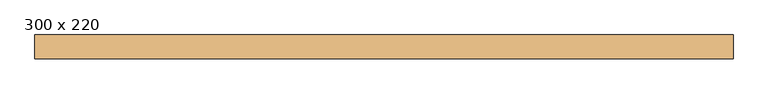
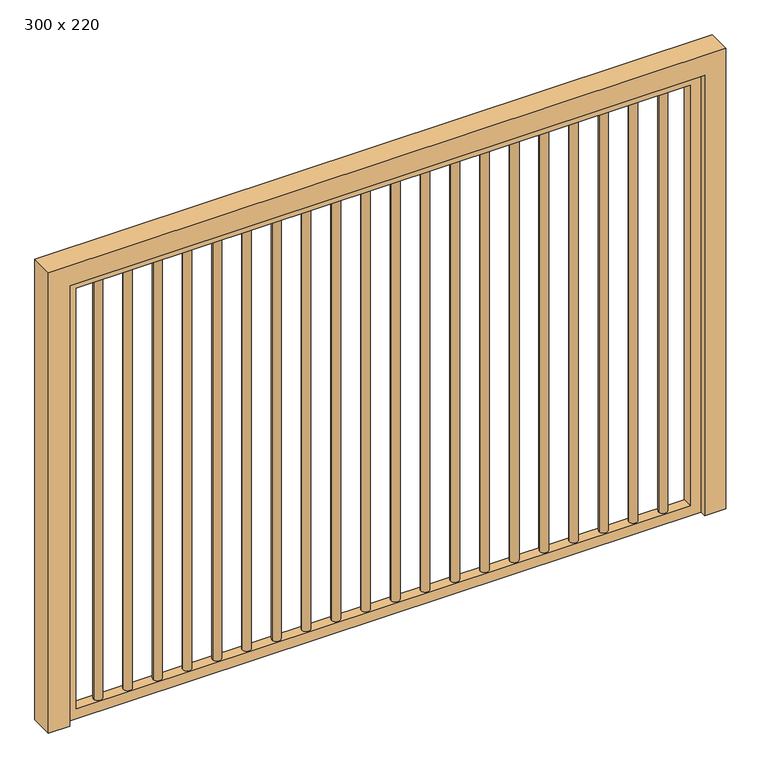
"""IFC4 building model written with IfcOpenShell, lengths in millimetres: door geometry, PORTÃO BASCULANTE COM BARRAS VERTICAIS : 300 x 220."""

from ifc_helpers import new_model, si_unit, point, frame, frame_2d, origin, place, context, project, spatial, polyline, circle_curve, trimmed, segment, composite_curve, outline, extrude, source, transform, mapped, element, save


def door_300_x_220_fe7283cd(model_context):
    return source(origin(), model_context, "Body", "SweptSolid", [
        extrude(outline(composite_curve([segment(trimmed(circle_curve(frame_2d((1414.5238095, 0.0)), 20.0), [point((1394.5238095, 0.0))], [point((1434.5238095, 0.0))], False, "CARTESIAN"), True, "CONTINUOUS"), segment(trimmed(circle_curve(frame_2d((1414.5238095, 0.0)), 20.0), [point((1434.5238095, 0.0))], [point((1394.5238095, 0.0))], False, "CARTESIAN"), True, "CONTINUOUS")], self_intersect=False)), frame((0.0, 0.0, 50.0), z_axis=(0.0, 0.0, 1.0), x_axis=(1.0, 0.0, 0.0)), (0.0, 0.0, 1.0), 2100.0),
        extrude(outline(composite_curve([segment(trimmed(circle_curve(frame_2d((1274.047619, 0.0)), 20.0), [point((1254.047619, 0.0))], [point((1294.047619, 0.0))], False, "CARTESIAN"), True, "CONTINUOUS"), segment(trimmed(circle_curve(frame_2d((1274.047619, 0.0)), 20.0), [point((1294.047619, 0.0))], [point((1254.047619, 0.0))], False, "CARTESIAN"), True, "CONTINUOUS")], self_intersect=False)), frame((0.0, 0.0, 50.0), z_axis=(0.0, 0.0, 1.0), x_axis=(1.0, 0.0, 0.0)), (0.0, 0.0, 1.0), 2100.0),
        extrude(outline(composite_curve([segment(trimmed(circle_curve(frame_2d((1133.5714286, 0.0)), 20.0), [point((1113.5714286, 0.0))], [point((1153.5714286, 0.0))], False, "CARTESIAN"), True, "CONTINUOUS"), segment(trimmed(circle_curve(frame_2d((1133.5714286, 0.0)), 20.0), [point((1153.5714286, 0.0))], [point((1113.5714286, 0.0))], False, "CARTESIAN"), True, "CONTINUOUS")], self_intersect=False)), frame((0.0, 0.0, 50.0), z_axis=(0.0, 0.0, 1.0), x_axis=(1.0, 0.0, 0.0)), (0.0, 0.0, 1.0), 2100.0),
        extrude(outline(composite_curve([segment(trimmed(circle_curve(frame_2d((993.0952381, 0.0)), 20.0), [point((973.0952381, 0.0))], [point((1013.0952381, 0.0))], False, "CARTESIAN"), True, "CONTINUOUS"), segment(trimmed(circle_curve(frame_2d((993.0952381, 0.0)), 20.0), [point((1013.0952381, 0.0))], [point((973.0952381, 0.0))], False, "CARTESIAN"), True, "CONTINUOUS")], self_intersect=False)), frame((0.0, 0.0, 50.0), z_axis=(0.0, 0.0, 1.0), x_axis=(1.0, 0.0, 0.0)), (0.0, 0.0, 1.0), 2100.0),
        extrude(outline(composite_curve([segment(trimmed(circle_curve(frame_2d((852.6190476, 0.0)), 20.0), [point((832.6190476, 0.0))], [point((872.6190476, 0.0))], False, "CARTESIAN"), True, "CONTINUOUS"), segment(trimmed(circle_curve(frame_2d((852.6190476, 0.0)), 20.0), [point((872.6190476, 0.0))], [point((832.6190476, 0.0))], False, "CARTESIAN"), True, "CONTINUOUS")], self_intersect=False)), frame((0.0, 0.0, 50.0), z_axis=(0.0, 0.0, 1.0), x_axis=(1.0, 0.0, 0.0)), (0.0, 0.0, 1.0), 2100.0),
        extrude(outline(composite_curve([segment(trimmed(circle_curve(frame_2d((712.1428571, 0.0)), 20.0), [point((692.1428571, 0.0))], [point((732.1428571, 0.0))], False, "CARTESIAN"), True, "CONTINUOUS"), segment(trimmed(circle_curve(frame_2d((712.1428571, 0.0)), 20.0), [point((732.1428571, 0.0))], [point((692.1428571, 0.0))], False, "CARTESIAN"), True, "CONTINUOUS")], self_intersect=False)), frame((0.0, 0.0, 50.0), z_axis=(0.0, 0.0, 1.0), x_axis=(1.0, 0.0, 0.0)), (0.0, 0.0, 1.0), 2100.0),
        extrude(outline(composite_curve([segment(trimmed(circle_curve(frame_2d((571.6666667, 0.0)), 20.0), [point((551.6666667, 0.0))], [point((591.6666667, 0.0))], False, "CARTESIAN"), True, "CONTINUOUS"), segment(trimmed(circle_curve(frame_2d((571.6666667, 0.0)), 20.0), [point((591.6666667, 0.0))], [point((551.6666667, 0.0))], False, "CARTESIAN"), True, "CONTINUOUS")], self_intersect=False)), frame((0.0, 0.0, 50.0), z_axis=(0.0, 0.0, 1.0), x_axis=(1.0, 0.0, 0.0)), (0.0, 0.0, 1.0), 2100.0),
        extrude(outline(composite_curve([segment(trimmed(circle_curve(frame_2d((431.1904762, 0.0)), 20.0), [point((411.1904762, 0.0))], [point((451.1904762, 0.0))], False, "CARTESIAN"), True, "CONTINUOUS"), segment(trimmed(circle_curve(frame_2d((431.1904762, 0.0)), 20.0), [point((451.1904762, 0.0))], [point((411.1904762, 0.0))], False, "CARTESIAN"), True, "CONTINUOUS")], self_intersect=False)), frame((0.0, 0.0, 50.0), z_axis=(0.0, 0.0, 1.0), x_axis=(1.0, 0.0, 0.0)), (0.0, 0.0, 1.0), 2100.0),
        extrude(outline(composite_curve([segment(trimmed(circle_curve(frame_2d((290.7142857, 0.0)), 20.0), [point((270.7142857, 0.0))], [point((310.7142857, 0.0))], False, "CARTESIAN"), True, "CONTINUOUS"), segment(trimmed(circle_curve(frame_2d((290.7142857, 0.0)), 20.0), [point((310.7142857, 0.0))], [point((270.7142857, 0.0))], False, "CARTESIAN"), True, "CONTINUOUS")], self_intersect=False)), frame((0.0, 0.0, 50.0), z_axis=(0.0, 0.0, 1.0), x_axis=(1.0, 0.0, 0.0)), (0.0, 0.0, 1.0), 2100.0),
        extrude(outline(composite_curve([segment(trimmed(circle_curve(frame_2d((150.2380952, 0.0)), 20.0), [point((130.2380952, 0.0))], [point((170.2380952, 0.0))], False, "CARTESIAN"), True, "CONTINUOUS"), segment(trimmed(circle_curve(frame_2d((150.2380952, 0.0)), 20.0), [point((170.2380952, 0.0))], [point((130.2380952, 0.0))], False, "CARTESIAN"), True, "CONTINUOUS")], self_intersect=False)), frame((0.0, 0.0, 50.0), z_axis=(0.0, 0.0, 1.0), x_axis=(1.0, 0.0, 0.0)), (0.0, 0.0, 1.0), 2100.0),
        extrude(outline(composite_curve([segment(trimmed(circle_curve(frame_2d((9.7619048, 0.0)), 20.0), [point((-10.2380952, 0.0))], [point((29.7619048, 0.0))], False, "CARTESIAN"), True, "CONTINUOUS"), segment(trimmed(circle_curve(frame_2d((9.7619048, 0.0)), 20.0), [point((29.7619048, 0.0))], [point((-10.2380952, 0.0))], False, "CARTESIAN"), True, "CONTINUOUS")], self_intersect=False)), frame((0.0, 0.0, 50.0), z_axis=(0.0, 0.0, 1.0), x_axis=(1.0, 0.0, 0.0)), (0.0, 0.0, 1.0), 2100.0),
        extrude(outline(composite_curve([segment(trimmed(circle_curve(frame_2d((-130.7142857, 0.0)), 20.0), [point((-150.7142857, 0.0))], [point((-110.7142857, 0.0))], False, "CARTESIAN"), True, "CONTINUOUS"), segment(trimmed(circle_curve(frame_2d((-130.7142857, 0.0)), 20.0), [point((-110.7142857, 0.0))], [point((-150.7142857, 0.0))], False, "CARTESIAN"), True, "CONTINUOUS")], self_intersect=False)), frame((0.0, 0.0, 50.0), z_axis=(0.0, 0.0, 1.0), x_axis=(1.0, 0.0, 0.0)), (0.0, 0.0, 1.0), 2100.0),
        extrude(outline(composite_curve([segment(trimmed(circle_curve(frame_2d((-271.1904762, 0.0)), 20.0), [point((-291.1904762, 0.0))], [point((-251.1904762, 0.0))], False, "CARTESIAN"), True, "CONTINUOUS"), segment(trimmed(circle_curve(frame_2d((-271.1904762, 0.0)), 20.0), [point((-251.1904762, 0.0))], [point((-291.1904762, 0.0))], False, "CARTESIAN"), True, "CONTINUOUS")], self_intersect=False)), frame((0.0, 0.0, 50.0), z_axis=(0.0, 0.0, 1.0), x_axis=(1.0, 0.0, 0.0)), (0.0, 0.0, 1.0), 2100.0),
        extrude(outline(composite_curve([segment(trimmed(circle_curve(frame_2d((-411.6666667, 0.0)), 20.0), [point((-431.6666667, 0.0))], [point((-391.6666667, 0.0))], False, "CARTESIAN"), True, "CONTINUOUS"), segment(trimmed(circle_curve(frame_2d((-411.6666667, 0.0)), 20.0), [point((-391.6666667, 0.0))], [point((-431.6666667, 0.0))], False, "CARTESIAN"), True, "CONTINUOUS")], self_intersect=False)), frame((0.0, 0.0, 50.0), z_axis=(0.0, 0.0, 1.0), x_axis=(1.0, 0.0, 0.0)), (0.0, 0.0, 1.0), 2100.0),
        extrude(outline(composite_curve([segment(trimmed(circle_curve(frame_2d((-973.5714286, 0.0)), 20.0), [point((-993.5714286, 0.0))], [point((-953.5714286, 0.0))], False, "CARTESIAN"), True, "CONTINUOUS"), segment(trimmed(circle_curve(frame_2d((-973.5714286, 0.0)), 20.0), [point((-953.5714286, 0.0))], [point((-993.5714286, 0.0))], False, "CARTESIAN"), True, "CONTINUOUS")], self_intersect=False)), frame((0.0, 0.0, 50.0), z_axis=(0.0, 0.0, 1.0), x_axis=(1.0, 0.0, 0.0)), (0.0, 0.0, 1.0), 2100.0),
        extrude(outline(composite_curve([segment(trimmed(circle_curve(frame_2d((-1114.047619, 0.0)), 20.0), [point((-1134.047619, 0.0))], [point((-1094.047619, 0.0))], False, "CARTESIAN"), True, "CONTINUOUS"), segment(trimmed(circle_curve(frame_2d((-1114.047619, 0.0)), 20.0), [point((-1094.047619, 0.0))], [point((-1134.047619, 0.0))], False, "CARTESIAN"), True, "CONTINUOUS")], self_intersect=False)), frame((0.0, 0.0, 50.0), z_axis=(0.0, 0.0, 1.0), x_axis=(1.0, 0.0, 0.0)), (0.0, 0.0, 1.0), 2100.0),
        extrude(outline(composite_curve([segment(trimmed(circle_curve(frame_2d((-1254.5238095, 0.0)), 20.0), [point((-1274.5238095, 0.0))], [point((-1234.5238095, 0.0))], False, "CARTESIAN"), True, "CONTINUOUS"), segment(trimmed(circle_curve(frame_2d((-1254.5238095, 0.0)), 20.0), [point((-1234.5238095, 0.0))], [point((-1274.5238095, 0.0))], False, "CARTESIAN"), True, "CONTINUOUS")], self_intersect=False)), frame((0.0, 0.0, 50.0), z_axis=(0.0, 0.0, 1.0), x_axis=(1.0, 0.0, 0.0)), (0.0, 0.0, 1.0), 2100.0),
        extrude(outline(composite_curve([segment(trimmed(circle_curve(frame_2d((-552.1428571, 0.0)), 20.0), [point((-572.1428571, 0.0))], [point((-532.1428571, 0.0))], False, "CARTESIAN"), True, "CONTINUOUS"), segment(trimmed(circle_curve(frame_2d((-552.1428571, 0.0)), 20.0), [point((-532.1428571, 0.0))], [point((-572.1428571, 0.0))], False, "CARTESIAN"), True, "CONTINUOUS")], self_intersect=False)), frame((0.0, 0.0, 50.0), z_axis=(0.0, 0.0, 1.0), x_axis=(1.0, 0.0, 0.0)), (0.0, 0.0, 1.0), 2100.0),
        extrude(outline(composite_curve([segment(trimmed(circle_curve(frame_2d((-692.6190476, 0.0)), 20.0), [point((-712.6190476, 0.0))], [point((-672.6190476, 0.0))], False, "CARTESIAN"), True, "CONTINUOUS"), segment(trimmed(circle_curve(frame_2d((-692.6190476, 0.0)), 20.0), [point((-672.6190476, 0.0))], [point((-712.6190476, 0.0))], False, "CARTESIAN"), True, "CONTINUOUS")], self_intersect=False)), frame((0.0, 0.0, 50.0), z_axis=(0.0, 0.0, 1.0), x_axis=(1.0, 0.0, 0.0)), (0.0, 0.0, 1.0), 2100.0),
        extrude(outline(composite_curve([segment(trimmed(circle_curve(frame_2d((-833.0952381, 0.0)), 20.0), [point((-853.0952381, 0.0))], [point((-813.0952381, 0.0))], False, "CARTESIAN"), True, "CONTINUOUS"), segment(trimmed(circle_curve(frame_2d((-833.0952381, 0.0)), 20.0), [point((-813.0952381, 0.0))], [point((-853.0952381, 0.0))], False, "CARTESIAN"), True, "CONTINUOUS")], self_intersect=False)), frame((0.0, 0.0, 50.0), z_axis=(0.0, 0.0, 1.0), x_axis=(1.0, 0.0, 0.0)), (0.0, 0.0, 1.0), 2100.0),
        extrude(outline(polyline([(2200.0, 1580.0), (2200.0, -1420.0), (0.0, -1420.0), (0.0, 1580.0), (2200.0, 1580.0)]), holes=[polyline([(2150.0, 1530.0), (50.0, 1530.0), (50.0, -1370.0), (2150.0, -1370.0), (2150.0, 1530.0)])]), frame((0.0, -25.0, 0.0), z_axis=(0.0, 1.0, 0.0), x_axis=(0.0, 0.0, 1.0)), (0.0, 0.0, 1.0), 50.0),
        extrude(outline(polyline([(0.0, -1520.0), (0.0, -1420.0), (2200.0, -1420.0), (2200.0, 1580.0), (0.0, 1580.0), (0.0, 1680.0), (2300.0, 1680.0), (2300.0, -1520.0), (0.0, -1520.0)])), frame((0.0, -55.0, 0.0), z_axis=(0.0, 1.0, 0.0), x_axis=(0.0, 0.0, 1.0)), (0.0, 0.0, 1.0), 110.0),
    ])


if __name__ == "__main__":
    model = new_model("IFC4")
    model_context = context("Model", 3, world=origin())
    ifc_project = project(units=[si_unit("LENGTHUNIT", "METRE", prefix="MILLI")], contexts=[model_context])
    site = spatial("IfcSite", under=ifc_project)
    building = spatial("IfcBuilding", under=site)
    placement = place(None, origin())
    door_300_x_220_shape = door_300_x_220_fe7283cd(model_context)
    element("IfcDoor", 1, ObjectType="PORTÃO BASCULANTE COM BARRAS VERTICAIS : 300 x 220", at=placement, inside=building, context=model_context, shape_type="MappedRepresentation", body=[
        mapped(door_300_x_220_shape, transform((0.0, 0.0, 0.0), x_axis=(1.0, 0.0, 0.0), y_axis=(0.0, 1.0, 0.0), z_axis=(0.0, 0.0, 1.0))),
    ])
    save(model, "model.ifc")
